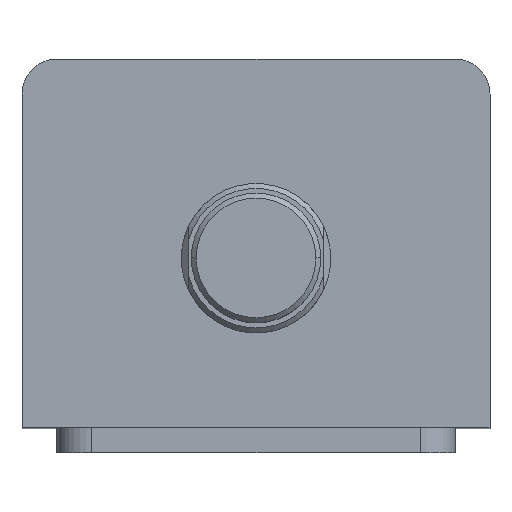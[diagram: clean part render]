
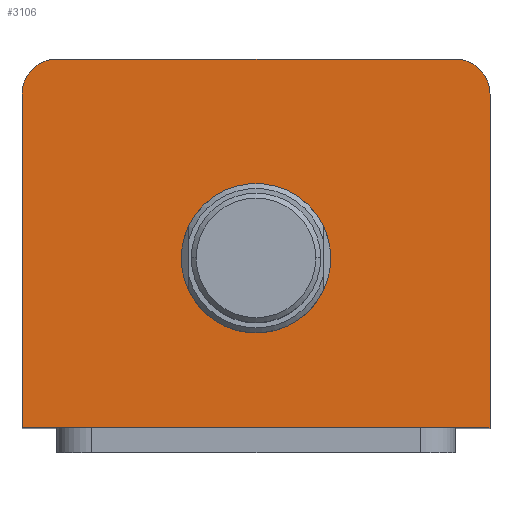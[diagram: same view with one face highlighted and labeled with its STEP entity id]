
A CAD part, top view. The second image highlights one B-rep face of the part: STEP entity #3106.
In plain terms, the highlighted planar face has unit normal (0, 0, 1).
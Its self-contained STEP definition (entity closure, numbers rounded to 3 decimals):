
#280 = AXIS2_PLACEMENT_3D ( 'NONE', #1998, #2003, #2004 ) ;
#332 = CARTESIAN_POINT ( 'NONE',  ( 0., -3., 140. ) ) ;
#338 = CARTESIAN_POINT ( 'NONE',  ( -47., 37., 140. ) ) ;
#366 = CARTESIAN_POINT ( 'NONE',  ( -40., 37., 140. ) ) ;
#378 = CARTESIAN_POINT ( 'NONE',  ( 40., 30., 140. ) ) ;
#381 = DIRECTION ( 'NONE',  ( 0., 0., 1. ) ) ;
#388 = DIRECTION ( 'NONE',  ( 1., 0., 0. ) ) ;
#441 = CARTESIAN_POINT ( 'NONE',  ( 15., -3., 140. ) ) ;
#464 = DIRECTION ( 'NONE',  ( 0., 0., 1. ) ) ;
#499 = DIRECTION ( 'NONE',  ( 0., -1., 0. ) ) ;
#501 = DIRECTION ( 'NONE',  ( 0., 0., 1. ) ) ;
#502 = DIRECTION ( 'NONE',  ( 1., 0., 0. ) ) ;
#503 = DIRECTION ( 'NONE',  ( -1., 0., 0. ) ) ;
#522 = DIRECTION ( 'NONE',  ( 1., 0., 0. ) ) ;
#531 = CARTESIAN_POINT ( 'NONE',  ( -40., 30., 140. ) ) ;
#533 = CARTESIAN_POINT ( 'NONE',  ( -47., 37., 140. ) ) ;
#728 = ORIENTED_EDGE ( 'NONE', *, *, #865, .T. ) ;
#731 = ORIENTED_EDGE ( 'NONE', *, *, #2738, .F. ) ;
#733 = ORIENTED_EDGE ( 'NONE', *, *, #883, .T. ) ;
#748 = ORIENTED_EDGE ( 'NONE', *, *, #894, .T. ) ;
#750 = ORIENTED_EDGE ( 'NONE', *, *, #2374, .T. ) ;
#752 = ORIENTED_EDGE ( 'NONE', *, *, #2768, .T. ) ;
#755 = ORIENTED_EDGE ( 'NONE', *, *, #901, .T. ) ;
#758 = ORIENTED_EDGE ( 'NONE', *, *, #863, .F. ) ;
#781 = VERTEX_POINT ( 'NONE', #441 ) ;
#834 = VERTEX_POINT ( 'NONE', #366 ) ;
#863 = EDGE_CURVE ( 'NONE', #781, #2046, #2102, .T. ) ;
#865 = EDGE_CURVE ( 'NONE', #2014, #834, #2099, .T. ) ;
#883 = EDGE_CURVE ( 'NONE', #2045, #2047, #2133, .T. ) ;
#894 = EDGE_CURVE ( 'NONE', #2048, #2014, #2148, .T. ) ;
#901 = EDGE_CURVE ( 'NONE', #834, #2045, #2158, .T. ) ;
#944 = CARTESIAN_POINT ( 'NONE',  ( 40., 37., 140. ) ) ;
#1205 = DIRECTION ( 'NONE',  ( 0., 1., 0. ) ) ;
#1206 = CARTESIAN_POINT ( 'NONE',  ( 47., 37., 140. ) ) ;
#1266 = CARTESIAN_POINT ( 'NONE',  ( 47., 30., 140. ) ) ;
#1267 = CARTESIAN_POINT ( 'NONE',  ( -47., -37., 140. ) ) ;
#1268 = CARTESIAN_POINT ( 'NONE',  ( -15., -3., 140. ) ) ;
#1269 = CARTESIAN_POINT ( 'NONE',  ( -47., 30., 140. ) ) ;
#1290 = CARTESIAN_POINT ( 'NONE',  ( 47., -37., 140. ) ) ;
#1396 = AXIS2_PLACEMENT_3D ( 'NONE', #2512, #2509, #2520 ) ;
#1470 = AXIS2_PLACEMENT_3D ( 'NONE', #531, #464, #522 ) ;
#1476 = AXIS2_PLACEMENT_3D ( 'NONE', #378, #381, #388 ) ;
#1489 = AXIS2_PLACEMENT_3D ( 'NONE', #332, #501, #502 ) ;
#1652 = EDGE_LOOP ( 'NONE', ( #758, #731 ) ) ;
#1657 = EDGE_LOOP ( 'NONE', ( #728, #755, #733, #752, #750, #748 ) ) ;
#1998 = CARTESIAN_POINT ( 'NONE',  ( 0., 0., 140. ) ) ;
#1999 = PLANE ( 'NONE',  #280 ) ;
#2003 = DIRECTION ( 'NONE',  ( 0., 0., 1. ) ) ;
#2004 = DIRECTION ( 'NONE',  ( 1., 0., 0. ) ) ;
#2014 = VERTEX_POINT ( 'NONE', #944 ) ;
#2030 = VERTEX_POINT ( 'NONE', #1290 ) ;
#2045 = VERTEX_POINT ( 'NONE', #1269 ) ;
#2046 = VERTEX_POINT ( 'NONE', #1268 ) ;
#2047 = VERTEX_POINT ( 'NONE', #1267 ) ;
#2048 = VERTEX_POINT ( 'NONE', #1266 ) ;
#2099 = LINE ( 'NONE', #338, #2107 ) ;
#2102 = CIRCLE ( 'NONE', #1489, 15. ) ;
#2107 = VECTOR ( 'NONE', #503, 1000. ) ;
#2133 = LINE ( 'NONE', #533, #2136 ) ;
#2136 = VECTOR ( 'NONE', #499, 1000. ) ;
#2148 = CIRCLE ( 'NONE', #1476, 7. ) ;
#2158 = CIRCLE ( 'NONE', #1470, 7. ) ;
#2255 = LINE ( 'NONE', #1206, #2258 ) ;
#2258 = VECTOR ( 'NONE', #1205, 1000. ) ;
#2374 = EDGE_CURVE ( 'NONE', #2030, #2048, #2255, .T. ) ;
#2509 = DIRECTION ( 'NONE',  ( 0., 0., 1. ) ) ;
#2512 = CARTESIAN_POINT ( 'NONE',  ( 0., -3., 140. ) ) ;
#2520 = DIRECTION ( 'NONE',  ( 1., 0., 0. ) ) ;
#2592 = DIRECTION ( 'NONE',  ( 1., 0., 0. ) ) ;
#2594 = CARTESIAN_POINT ( 'NONE',  ( -47., -37., 140. ) ) ;
#2738 = EDGE_CURVE ( 'NONE', #2046, #781, #2871, .T. ) ;
#2768 = EDGE_CURVE ( 'NONE', #2047, #2030, #2915, .T. ) ;
#2871 = CIRCLE ( 'NONE', #1396, 15. ) ;
#2915 = LINE ( 'NONE', #2594, #2918 ) ;
#2918 = VECTOR ( 'NONE', #2592, 1000. ) ;
#3005 = FACE_BOUND ( 'NONE', #1652, .T. ) ;
#3010 = FACE_OUTER_BOUND ( 'NONE', #1657, .T. ) ;
#3106 = ADVANCED_FACE ( 'NONE', ( #3005, #3010 ), #1999, .T. ) ;
